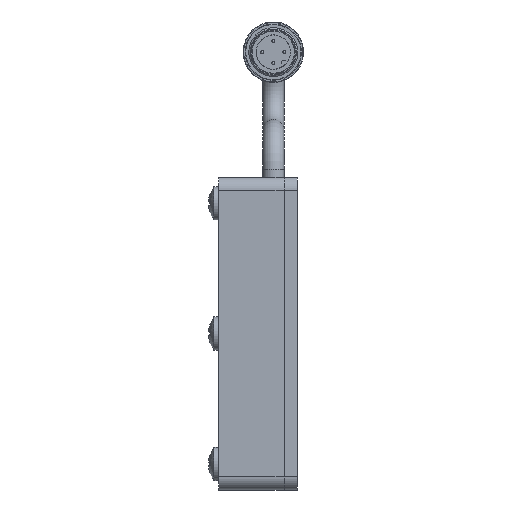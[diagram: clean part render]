
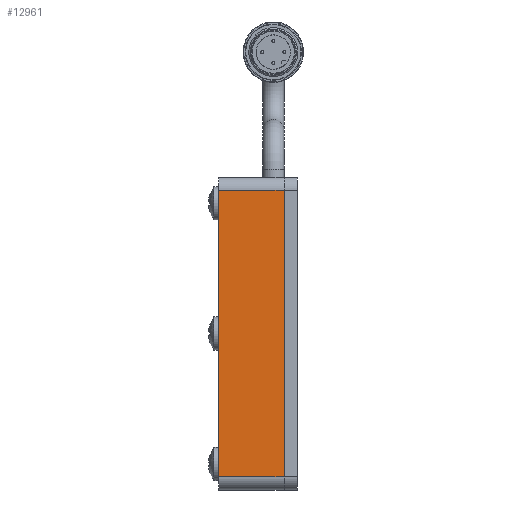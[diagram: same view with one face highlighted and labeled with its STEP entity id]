
A CAD part, left-side view. The second image highlights one B-rep face of the part: STEP entity #12961.
In plain terms, the highlighted planar face has unit normal (-1, 0, 0).
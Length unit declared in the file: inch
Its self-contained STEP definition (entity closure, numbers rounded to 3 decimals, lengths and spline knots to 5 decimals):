
#477 = EDGE_CURVE ( 'NONE', #10795, #12768, #11252, .T. ) ;
#930 = LINE ( 'NONE', #12331, #10060 ) ;
#1017 = CARTESIAN_POINT ( 'NONE',  ( -3.5, 0.3125, -1.375 ) ) ;
#1323 = EDGE_CURVE ( 'NONE', #6739, #10795, #11547, .T. ) ;
#1401 = DIRECTION ( 'NONE',  ( 0., 0., -1. ) ) ;
#2327 = EDGE_CURVE ( 'NONE', #12768, #9016, #7985, .T. ) ;
#2536 = ORIENTED_EDGE ( 'NONE', *, *, #12402, .F. ) ;
#3429 = ORIENTED_EDGE ( 'NONE', *, *, #2327, .T. ) ;
#3579 = DIRECTION ( 'NONE',  ( 1., 0., 0. ) ) ;
#4848 = DIRECTION ( 'NONE',  ( 0., 1., 0. ) ) ;
#4981 = VECTOR ( 'NONE', #11476, 39.37008 ) ;
#5176 = CARTESIAN_POINT ( 'NONE',  ( -3.5, -0.3125, 1.5 ) ) ;
#5611 = CARTESIAN_POINT ( 'NONE',  ( -3.5, -0.3125, -1.375 ) ) ;
#5914 = CARTESIAN_POINT ( 'NONE',  ( -3.5, -0.3125, 1.375 ) ) ;
#6739 = VERTEX_POINT ( 'NONE', #9036 ) ;
#7791 = VECTOR ( 'NONE', #4848, 39.37008 ) ;
#7908 = DIRECTION ( 'NONE',  ( 0., 0., 1. ) ) ;
#7985 = LINE ( 'NONE', #10027, #7791 ) ;
#8046 = DIRECTION ( 'NONE',  ( 0., 0., 1. ) ) ;
#9016 = VERTEX_POINT ( 'NONE', #12265 ) ;
#9036 = CARTESIAN_POINT ( 'NONE',  ( -3.5, 0.3125, -1.375 ) ) ;
#9726 = CARTESIAN_POINT ( 'NONE',  ( -3.5, 0.3125, 1.5 ) ) ;
#10027 = CARTESIAN_POINT ( 'NONE',  ( -3.5, 0.3125, 1.375 ) ) ;
#10060 = VECTOR ( 'NONE', #8046, 39.37008 ) ;
#10353 = ORIENTED_EDGE ( 'NONE', *, *, #477, .T. ) ;
#10604 = ORIENTED_EDGE ( 'NONE', *, *, #1323, .T. ) ;
#10641 = VECTOR ( 'NONE', #7908, 39.37008 ) ;
#10767 = EDGE_LOOP ( 'NONE', ( #2536, #10604, #10353, #3429 ) ) ;
#10795 = VERTEX_POINT ( 'NONE', #5611 ) ;
#10910 = AXIS2_PLACEMENT_3D ( 'NONE', #9726, #3579, #1401 ) ;
#11252 = LINE ( 'NONE', #5176, #10641 ) ;
#11476 = DIRECTION ( 'NONE',  ( 0., -1., 0. ) ) ;
#11547 = LINE ( 'NONE', #1017, #4981 ) ;
#11772 = FACE_OUTER_BOUND ( 'NONE', #10767, .T. ) ;
#12265 = CARTESIAN_POINT ( 'NONE',  ( -3.5, 0.3125, 1.375 ) ) ;
#12331 = CARTESIAN_POINT ( 'NONE',  ( -3.5, 0.3125, 1.5 ) ) ;
#12402 = EDGE_CURVE ( 'NONE', #6739, #9016, #930, .T. ) ;
#12768 = VERTEX_POINT ( 'NONE', #5914 ) ;
#12910 = PLANE ( 'NONE',  #10910 ) ;
#12961 = ADVANCED_FACE ( 'NONE', ( #11772 ), #12910, .F. ) ;
